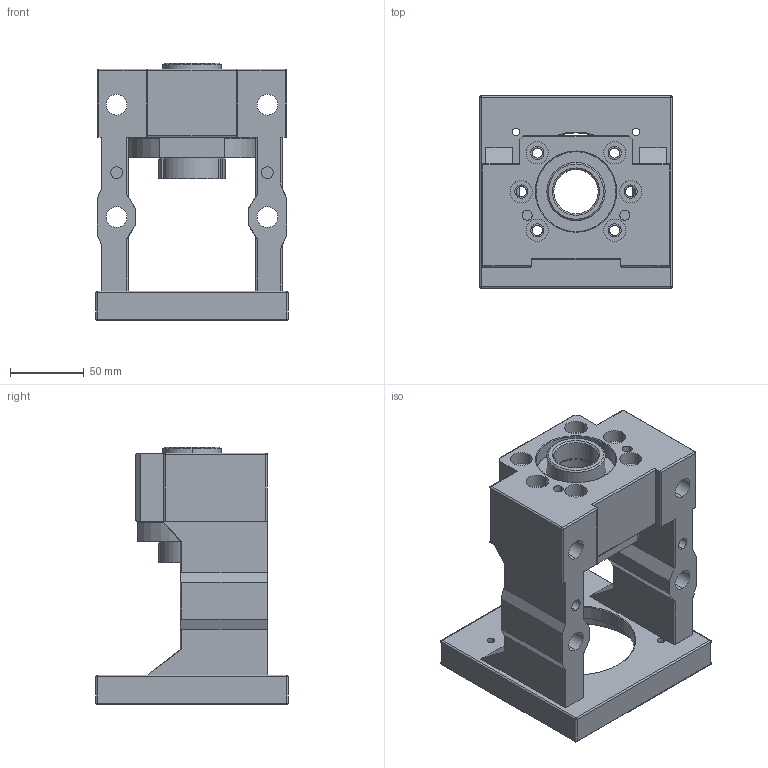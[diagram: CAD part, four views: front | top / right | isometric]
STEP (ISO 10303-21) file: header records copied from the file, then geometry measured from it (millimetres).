
FILE_DESCRIPTION((''),'2;1');
FILE_NAME('M100YP-SBK30-C__ASM','2019-09-26T',('ASUS'),(''),'PRO/ENGINEER BY PARAMETRIC TECHNOLOGY CORPORATION, 2010280','PRO/ENGINEER BY PARAMETRIC TECHNOLOGY CORPORATION, 2010280','');
FILE_SCHEMA(('CONFIG_CONTROL_DESIGN'));
Length unit declared in the file: millimetre
Products named in the file (6): PRT0009; PRT0011; PRT0012; PRT0013; M100YP-SBK30-C____________ASM; M100YP-SBK30-C__ASM
Assembly tree (6 placements, depth 3):
  M100YP-SBK30-C__ASM
    M100YP-SBK30-C____________ASM
      PRT0009  x2
      PRT0011
      PRT0012
      PRT0013
Bounding box: 130 x 130 x 174 mm (x, y, z)
Volume: 884824.1 mm3; surface area: 162779 mm2
Topology: 5 solids, 5 shells, 283 faces, 707 edges, 438 vertices
Faces by surface type: cylinder 145, plane 87, cone 33, sphere 12, torus 4, extrusion 2
Entity records: 8470 total; most frequent: CARTESIAN_POINT 1679, DIRECTION 1455, ORIENTED_EDGE 1334, EDGE_CURVE 667, AXIS2_PLACEMENT_3D 554, VERTEX_POINT 422, VECTOR 347, LINE 345
